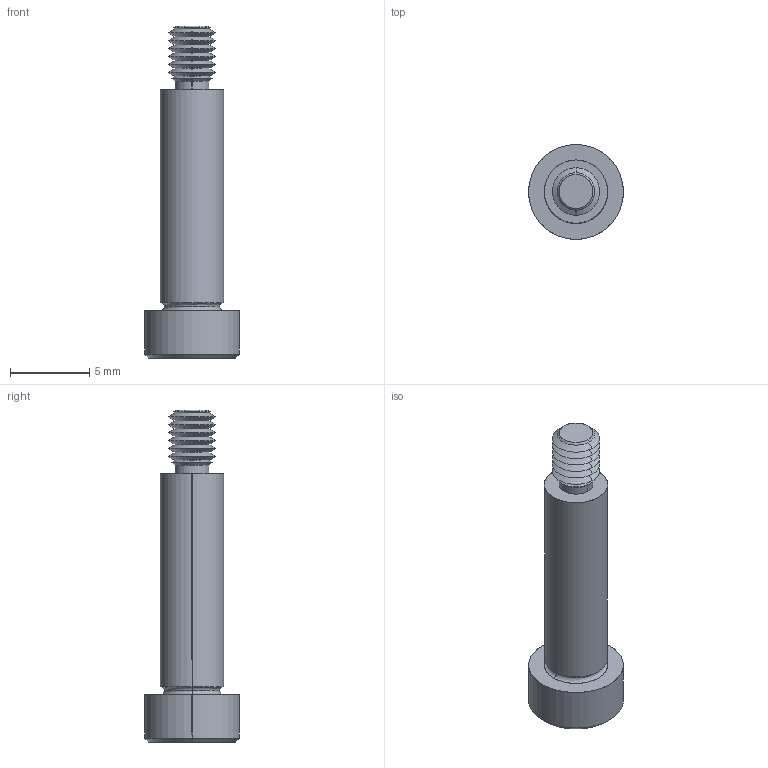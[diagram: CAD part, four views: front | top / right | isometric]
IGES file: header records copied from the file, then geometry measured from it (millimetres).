
Start section: SolidWorks IGES file using analytic representation for surfaces
Global section: file name: C:\Users\IanO\Documents\Temp Folder\GENERAL\SCREW REVISION\P0130_v2\P0130.T5_v2_20220106_IGES\P0130.040-014-T5.igs; native system: SolidWorks 2019; preprocessor: SolidWorks 2019; author: IanO; date: 220106.220739; units: millimetre
Bounding box: 6 x 6 x 21 mm (x, y, z)
Surface area: 360.8 mm2 (no closed solid volume)
Topology: 0 solids, 0 shells, 68 faces, 520 edges, 518 vertices
Faces by surface type: revolution 48, bspline 20
